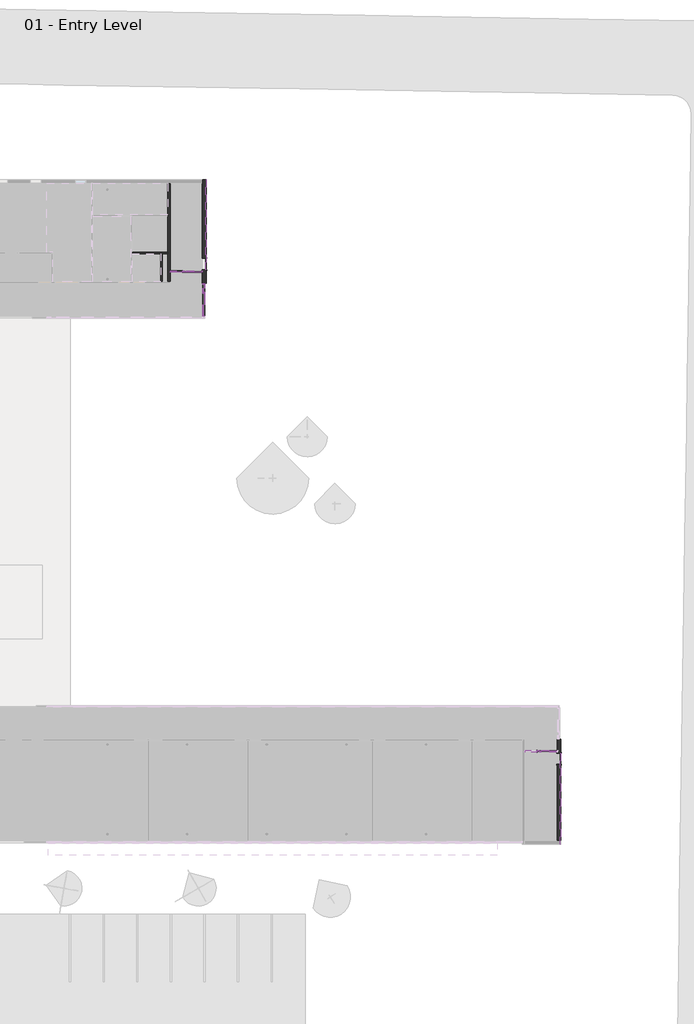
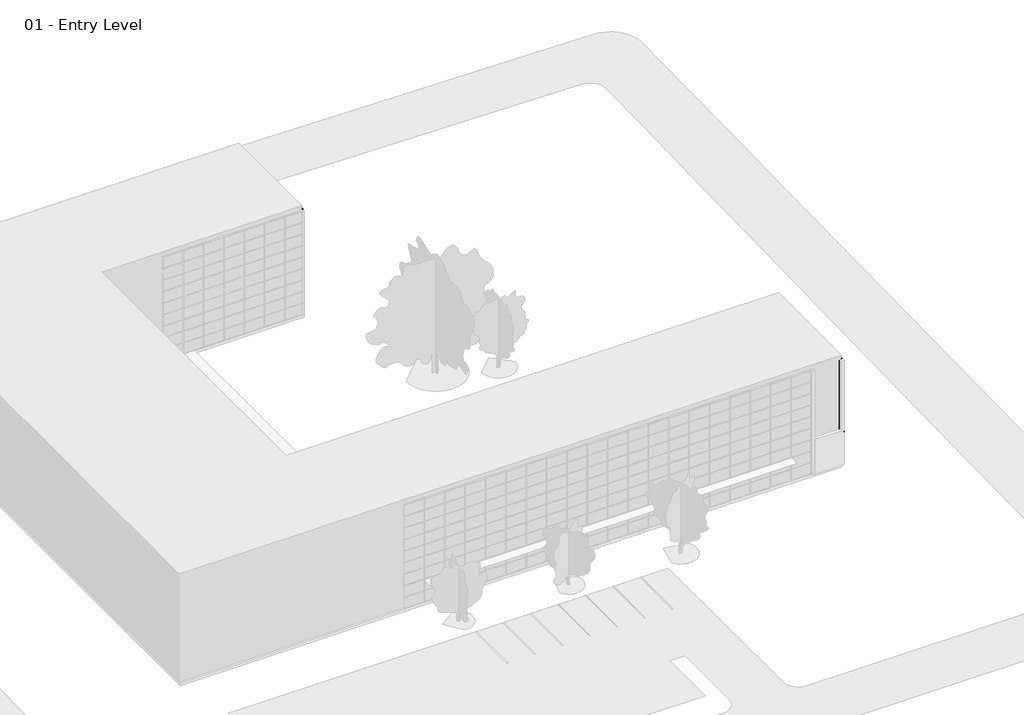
# One storey, part 31 of 34: 69 members, 24 plates, 5 walls, 4 proxies, 3 doors.
"""IFC4 building model written with IfcOpenShell, lengths in millimetres."""

from ifc_helpers import new_model, si_unit, frame, origin, origin_with_axes, place, context, project, spatial, polyline, outline, extrude, faceted_brep, transform, mapped, element, save
from components import curtain_wall_sgl_glass_curtain_wall_sgl_glass_c2d4b377, door_4e13689c, door_90af15fc, member_2b49869a, member_75074519, member_18e22e2d, member_9193c932, member_c33c434a, member_2ee2964b, member_9822c4e5, member_b50b2218, member_6186cc23, member_5d67b9fc, member_a50b3cda, member_c327c56d, member_410c6227, member_73c23c35, member_bcb6a316, member_d3323a85, member_7bd2cd2c, member_6be37683, member_aae1cefe, member_5e33a872, member_7c0f4a23, member_95d83a1b, system_panel_glazed_bb8d5bd2, system_panel_glazed_f6796d4b, system_panel_glazed_01db37db, system_panel_glazed_0a464ab8, system_panel_glazed_652e8fc4, system_panel_glazed_8dc8626f, system_panel_glazed_bb2f95a6, system_panel_glazed_de38c793, system_panel_glazed_8879a23a, system_panel_glazed_cf112098

model = new_model("IFC4")

# Units and contexts
model_context = context("Model", 3, world=origin())
ifc_project = project(units=[si_unit("LENGTHUNIT", "METRE", prefix="MILLI")], contexts=[model_context])

# Site, building, storey
site = spatial("IfcSite", under=ifc_project)
building = spatial("IfcBuilding", under=site)
storey = spatial("IfcBuildingStorey", under=building, Name="01 - Entry Level", Elevation=0.0)

# Proxies
placement = place(None, origin())
element("IfcBuildingElementProxy", 1, Name="Reveal", ObjectType="Reveal", at=placement, inside=storey, context=model_context, shape_type="SweptSolid", body=[
    extrude(outline(polyline([(66310.7957476, -254.075), (66259.9957476, -254.075), (66259.9957476, 7204.0), (66310.7957476, 7204.0), (66310.7957476, -254.075)])), frame((0.0, 0.0, 3429.0), z_axis=(0.0, 0.0, 1.0), x_axis=(1.0, 0.0, 0.0)), (0.0, 0.0, 1.0), 76.2),
])
element("IfcBuildingElementProxy", 2, Name="Reveal", ObjectType="Reveal", at=placement, inside=storey, context=model_context, shape_type="SweptSolid", body=[
    extrude(outline(polyline([(66259.9957476, 2490.7125), (66310.7957476, 2490.7125), (66310.7957476, 2414.5125), (66259.9957476, 2414.5125), (66259.9957476, 2490.7125)])), origin_with_axes(), (0.0, 0.0, 1.0), 9753.6),
])
element("IfcBuildingElementProxy", 3, Name="Reveal", ObjectType="Reveal", at=placement, inside=storey, context=model_context, shape_type="SweptSolid", body=[
    extrude(outline(polyline([(37303.9957476, 51336.5), (37354.7957476, 51336.5), (37354.7957476, 51260.3), (37303.9957476, 51260.3), (37303.9957476, 51336.5)])), origin_with_axes(), (0.0, 0.0, 1.0), 9753.6),
])
element("IfcBuildingElementProxy", 4, Name="Reveal", ObjectType="Reveal", at=placement, inside=storey, context=model_context, shape_type="SweptSolid", body=[
    extrude(outline(polyline([(37354.7957476, 46675.6), (37303.9957476, 46675.6), (37303.9957476, 54032.075), (37354.7957476, 54032.075), (37354.7957476, 46675.6)])), frame((0.0, 0.0, 3581.4), z_axis=(0.0, 0.0, 1.0), x_axis=(1.0, 0.0, 0.0)), (0.0, 0.0, 1.0), 76.2),
])

# Doors
curtain_wall_sgl_glass_curtain_wall_sgl_glass_shape = curtain_wall_sgl_glass_curtain_wall_sgl_glass_c2d4b377(model_context)
element("IfcDoor", 5, ObjectType="Curtain Wall Sgl Glass : Curtain Wall Sgl Glass", at=placement, inside=storey, context=model_context, shape_type="MappedRepresentation", body=[
    mapped(curtain_wall_sgl_glass_curtain_wall_sgl_glass_shape, transform((34925.9207476, 46523.2, 0.0), x_axis=(-1.0, 0.0, 0.0), y_axis=(0.0, -1.0, 0.0), z_axis=(0.0, 0.0, 1.0))),
])
door_shape = door_4e13689c(model_context)
element("IfcDoor", 6, ObjectType="Single-Flush : 36\" x 84\"", at=placement, inside=storey, context=model_context, shape_type="MappedRepresentation", body=[
    mapped(door_shape, transform((37200.8082476, 47132.8, 0.0), x_axis=(0.0, -1.0, 0.0), y_axis=(1.0, 0.0, 0.0), z_axis=(0.0, 0.0, 1.0))),
])
door_2_shape = door_90af15fc(model_context)
element("IfcDoor", 7, ObjectType="Single-Flush : 36\" x 84\"", at=placement, inside=storey, context=model_context, shape_type="MappedRepresentation", body=[
    mapped(door_2_shape, transform((66156.8082476, 6746.8, 0.0), x_axis=(0.0, 1.0, 0.0), y_axis=(-1.0, 0.0, 0.0), z_axis=(0.0, 0.0, 1.0))),
])

# Members
member_shape = member_2b49869a(model_context)
element("IfcMember", 8, ObjectType="Rectangular Mullion : 2.5\" x 5\" rectangular", at=placement, inside=storey, context=model_context, shape_type="MappedRepresentation", body=[
    mapped(member_shape, transform((37148.4207476, 44783.3, 9753.6), x_axis=(0.0, 1.0, 0.0), y_axis=(1.0, 0.0, 0.0), z_axis=(0.0, 0.0, -1.0))),
])
member_2_shape = member_75074519(model_context)
element("IfcMember", 9, ObjectType="Rectangular Mullion : 2.5\" x 5\" rectangular", at=placement, inside=storey, context=model_context, shape_type="MappedRepresentation", body=[
    mapped(member_2_shape, transform((37148.4207476, 45545.3, 9753.6), x_axis=(0.0, 1.0, 0.0), y_axis=(1.0, 0.0, 0.0), z_axis=(0.0, 0.0, -1.0))),
])
member_3_shape = member_18e22e2d(model_context)
element("IfcMember", 10, ObjectType="Rectangular Mullion : 2.5\" x 5\" rectangular", at=placement, inside=storey, context=model_context, shape_type="MappedRepresentation", body=[
    mapped(member_3_shape, transform((35414.8707476, 46523.2, 2438.4), x_axis=(1.0, 0.0, 0.0), y_axis=(0.0, -1.0, 0.0), z_axis=(0.0, 0.0, -1.0))),
])
element("IfcMember", 11, ObjectType="Rectangular Mullion : 2.5\" x 5\" rectangular", at=placement, inside=storey, context=model_context, shape_type="MappedRepresentation", body=[
    mapped(member_3_shape, transform((64358.1707476, 7356.4, 2438.4), x_axis=(1.0, 0.0, 0.0), y_axis=(0.0, -1.0, 0.0), z_axis=(0.0, 0.0, -1.0))),
])
member_4_shape = member_9193c932(model_context)
element("IfcMember", 12, ObjectType="Rectangular Mullion : 2.5\" x 5\" rectangular", at=placement, inside=storey, context=model_context, shape_type="MappedRepresentation", body=[
    mapped(member_4_shape, transform((66055.2082476, 7356.4, 2438.4), x_axis=(1.0, 0.0, 0.0), y_axis=(0.0, -1.0, 0.0), z_axis=(0.0, 0.0, -1.0))),
])
element("IfcMember", 13, ObjectType="Rectangular Mullion : 2.5\" x 5\" rectangular", at=placement, inside=storey, context=model_context, shape_type="MappedRepresentation", body=[
    mapped(member_4_shape, transform((34405.2207476, 46523.2, 3403.6), x_axis=(-1.0, 0.0, 0.0), y_axis=(0.0, -1.0, 0.0), z_axis=(0.0, 0.0, 1.0))),
])
element("IfcMember", 14, ObjectType="Rectangular Mullion : 2.5\" x 5\" rectangular", at=placement, inside=storey, context=model_context, shape_type="MappedRepresentation", body=[
    mapped(member_4_shape, transform((37046.8207476, 46523.2, 2438.4), x_axis=(1.0, 0.0, 0.0), y_axis=(0.0, -1.0, 0.0), z_axis=(0.0, 0.0, -1.0))),
])
element("IfcMember", 15, ObjectType="Rectangular Mullion : 2.5\" x 5\" rectangular", at=placement, inside=storey, context=model_context, shape_type="MappedRepresentation", body=[
    mapped(member_shape, transform((37148.4207476, 44783.3, 0.0), x_axis=(0.0, 1.0, 0.0), y_axis=(1.0, 0.0, 0.0), z_axis=(0.0, 0.0, -1.0))),
])
element("IfcMember", 16, ObjectType="Rectangular Mullion : 2.5\" x 5\" rectangular", at=placement, inside=storey, context=model_context, shape_type="MappedRepresentation", body=[
    mapped(member_shape, transform((37148.4207476, 44783.3, 1219.2), x_axis=(0.0, 1.0, 0.0), y_axis=(1.0, 0.0, 0.0), z_axis=(0.0, 0.0, -1.0))),
])
element("IfcMember", 17, ObjectType="Rectangular Mullion : 2.5\" x 5\" rectangular", at=placement, inside=storey, context=model_context, shape_type="MappedRepresentation", body=[
    mapped(member_shape, transform((37148.4207476, 44783.3, 2438.4), x_axis=(0.0, 1.0, 0.0), y_axis=(1.0, 0.0, 0.0), z_axis=(0.0, 0.0, -1.0))),
])
element("IfcMember", 18, ObjectType="Rectangular Mullion : 2.5\" x 5\" rectangular", at=placement, inside=storey, context=model_context, shape_type="MappedRepresentation", body=[
    mapped(member_shape, transform((37148.4207476, 44783.3, 3657.6), x_axis=(0.0, 1.0, 0.0), y_axis=(1.0, 0.0, 0.0), z_axis=(0.0, 0.0, -1.0))),
])
element("IfcMember", 19, ObjectType="Rectangular Mullion : 2.5\" x 5\" rectangular", at=placement, inside=storey, context=model_context, shape_type="MappedRepresentation", body=[
    mapped(member_shape, transform((37148.4207476, 44783.3, 4876.8), x_axis=(0.0, 1.0, 0.0), y_axis=(1.0, 0.0, 0.0), z_axis=(0.0, 0.0, -1.0))),
])
element("IfcMember", 20, ObjectType="Rectangular Mullion : 2.5\" x 5\" rectangular", at=placement, inside=storey, context=model_context, shape_type="MappedRepresentation", body=[
    mapped(member_shape, transform((37148.4207476, 44783.3, 6096.0), x_axis=(0.0, 1.0, 0.0), y_axis=(1.0, 0.0, 0.0), z_axis=(0.0, 0.0, -1.0))),
])
element("IfcMember", 21, ObjectType="Rectangular Mullion : 2.5\" x 5\" rectangular", at=placement, inside=storey, context=model_context, shape_type="MappedRepresentation", body=[
    mapped(member_shape, transform((37148.4207476, 44783.3, 7315.2), x_axis=(0.0, 1.0, 0.0), y_axis=(1.0, 0.0, 0.0), z_axis=(0.0, 0.0, -1.0))),
])
element("IfcMember", 22, ObjectType="Rectangular Mullion : 2.5\" x 5\" rectangular", at=placement, inside=storey, context=model_context, shape_type="MappedRepresentation", body=[
    mapped(member_shape, transform((37148.4207476, 44783.3, 8534.4), x_axis=(0.0, 1.0, 0.0), y_axis=(1.0, 0.0, 0.0), z_axis=(0.0, 0.0, -1.0))),
])
member_5_shape = member_c33c434a(model_context)
element("IfcMember", 23, ObjectType="Rectangular Mullion : 2.5\" x 5\" rectangular", at=placement, inside=storey, context=model_context, shape_type="MappedRepresentation", body=[
    mapped(member_5_shape, transform((37148.4207476, 45481.8, 10972.8), x_axis=(0.0, 0.0, 1.0), y_axis=(1.0, 0.0, 0.0), z_axis=(0.0, 1.0, 0.0))),
])
element("IfcMember", 24, ObjectType="Rectangular Mullion : 2.5\" x 5\" rectangular", at=placement, inside=storey, context=model_context, shape_type="MappedRepresentation", body=[
    mapped(member_5_shape, transform((37148.4207476, 44815.05, 0.0), x_axis=(0.0, 0.0, -1.0), y_axis=(1.0, 0.0, 0.0), z_axis=(0.0, -1.0, 0.0))),
])
member_6_shape = member_2ee2964b(model_context)
element("IfcMember", 25, ObjectType="Rectangular Mullion : 2.5\" x 5\" rectangular", at=placement, inside=storey, context=model_context, shape_type="MappedRepresentation", body=[
    mapped(member_6_shape, transform((37148.4207476, 45481.8, 1219.2), x_axis=(0.0, 0.0, 1.0), y_axis=(1.0, 0.0, 0.0), z_axis=(0.0, 1.0, 0.0))),
])
element("IfcMember", 26, ObjectType="Rectangular Mullion : 2.5\" x 5\" rectangular", at=placement, inside=storey, context=model_context, shape_type="MappedRepresentation", body=[
    mapped(member_6_shape, transform((37148.4207476, 45481.8, 2438.4), x_axis=(0.0, 0.0, 1.0), y_axis=(1.0, 0.0, 0.0), z_axis=(0.0, 1.0, 0.0))),
])
element("IfcMember", 27, ObjectType="Rectangular Mullion : 2.5\" x 5\" rectangular", at=placement, inside=storey, context=model_context, shape_type="MappedRepresentation", body=[
    mapped(member_6_shape, transform((37148.4207476, 45481.8, 3657.6), x_axis=(0.0, 0.0, 1.0), y_axis=(1.0, 0.0, 0.0), z_axis=(0.0, 1.0, 0.0))),
])
element("IfcMember", 28, ObjectType="Rectangular Mullion : 2.5\" x 5\" rectangular", at=placement, inside=storey, context=model_context, shape_type="MappedRepresentation", body=[
    mapped(member_6_shape, transform((37148.4207476, 45481.8, 4876.8), x_axis=(0.0, 0.0, 1.0), y_axis=(1.0, 0.0, 0.0), z_axis=(0.0, 1.0, 0.0))),
])
element("IfcMember", 29, ObjectType="Rectangular Mullion : 2.5\" x 5\" rectangular", at=placement, inside=storey, context=model_context, shape_type="MappedRepresentation", body=[
    mapped(member_6_shape, transform((37148.4207476, 45481.8, 6096.0), x_axis=(0.0, 0.0, 1.0), y_axis=(1.0, 0.0, 0.0), z_axis=(0.0, 1.0, 0.0))),
])
element("IfcMember", 30, ObjectType="Rectangular Mullion : 2.5\" x 5\" rectangular", at=placement, inside=storey, context=model_context, shape_type="MappedRepresentation", body=[
    mapped(member_6_shape, transform((37148.4207476, 45481.8, 7315.2), x_axis=(0.0, 0.0, 1.0), y_axis=(1.0, 0.0, 0.0), z_axis=(0.0, 1.0, 0.0))),
])
element("IfcMember", 31, ObjectType="Rectangular Mullion : 2.5\" x 5\" rectangular", at=placement, inside=storey, context=model_context, shape_type="MappedRepresentation", body=[
    mapped(member_6_shape, transform((37148.4207476, 45481.8, 8534.4), x_axis=(0.0, 0.0, 1.0), y_axis=(1.0, 0.0, 0.0), z_axis=(0.0, 1.0, 0.0))),
])
element("IfcMember", 32, ObjectType="Rectangular Mullion : 2.5\" x 5\" rectangular", at=placement, inside=storey, context=model_context, shape_type="MappedRepresentation", body=[
    mapped(member_6_shape, transform((37148.4207476, 45481.8, 9753.6), x_axis=(0.0, 0.0, 1.0), y_axis=(1.0, 0.0, 0.0), z_axis=(0.0, 1.0, 0.0))),
])
element("IfcMember", 33, ObjectType="Rectangular Mullion : 2.5\" x 5\" rectangular", at=placement, inside=storey, context=model_context, shape_type="MappedRepresentation", body=[
    mapped(member_2_shape, transform((37148.4207476, 45545.3, 0.0), x_axis=(0.0, 1.0, 0.0), y_axis=(1.0, 0.0, 0.0), z_axis=(0.0, 0.0, -1.0))),
])
element("IfcMember", 34, ObjectType="Rectangular Mullion : 2.5\" x 5\" rectangular", at=placement, inside=storey, context=model_context, shape_type="MappedRepresentation", body=[
    mapped(member_2_shape, transform((37148.4207476, 45545.3, 1219.2), x_axis=(0.0, 1.0, 0.0), y_axis=(1.0, 0.0, 0.0), z_axis=(0.0, 0.0, -1.0))),
])
element("IfcMember", 35, ObjectType="Rectangular Mullion : 2.5\" x 5\" rectangular", at=placement, inside=storey, context=model_context, shape_type="MappedRepresentation", body=[
    mapped(member_2_shape, transform((37148.4207476, 45545.3, 2438.4), x_axis=(0.0, 1.0, 0.0), y_axis=(1.0, 0.0, 0.0), z_axis=(0.0, 0.0, -1.0))),
])
element("IfcMember", 36, ObjectType="Rectangular Mullion : 2.5\" x 5\" rectangular", at=placement, inside=storey, context=model_context, shape_type="MappedRepresentation", body=[
    mapped(member_2_shape, transform((37148.4207476, 45545.3, 3657.6), x_axis=(0.0, 1.0, 0.0), y_axis=(1.0, 0.0, 0.0), z_axis=(0.0, 0.0, -1.0))),
])
element("IfcMember", 37, ObjectType="Rectangular Mullion : 2.5\" x 5\" rectangular", at=placement, inside=storey, context=model_context, shape_type="MappedRepresentation", body=[
    mapped(member_2_shape, transform((37148.4207476, 45545.3, 4876.8), x_axis=(0.0, 1.0, 0.0), y_axis=(1.0, 0.0, 0.0), z_axis=(0.0, 0.0, -1.0))),
])
element("IfcMember", 38, ObjectType="Rectangular Mullion : 2.5\" x 5\" rectangular", at=placement, inside=storey, context=model_context, shape_type="MappedRepresentation", body=[
    mapped(member_2_shape, transform((37148.4207476, 45545.3, 6096.0), x_axis=(0.0, 1.0, 0.0), y_axis=(1.0, 0.0, 0.0), z_axis=(0.0, 0.0, -1.0))),
])
element("IfcMember", 39, ObjectType="Rectangular Mullion : 2.5\" x 5\" rectangular", at=placement, inside=storey, context=model_context, shape_type="MappedRepresentation", body=[
    mapped(member_2_shape, transform((37148.4207476, 45545.3, 7315.2), x_axis=(0.0, 1.0, 0.0), y_axis=(1.0, 0.0, 0.0), z_axis=(0.0, 0.0, -1.0))),
])
element("IfcMember", 40, ObjectType="Rectangular Mullion : 2.5\" x 5\" rectangular", at=placement, inside=storey, context=model_context, shape_type="MappedRepresentation", body=[
    mapped(member_2_shape, transform((37148.4207476, 45545.3, 8534.4), x_axis=(0.0, 1.0, 0.0), y_axis=(1.0, 0.0, 0.0), z_axis=(0.0, 0.0, -1.0))),
])
member_7_shape = member_9822c4e5(model_context)
element("IfcMember", 41, ObjectType="Rectangular Mullion : 2.5\" x 5\" rectangular", at=placement, inside=storey, context=model_context, shape_type="MappedRepresentation", body=[
    mapped(member_7_shape, transform((37148.4207476, 44751.55, 10972.8), x_axis=(0.0, 0.0, 1.0), y_axis=(1.0, 0.0, 0.0), z_axis=(0.0, 1.0, 0.0))),
])
member_8_shape = member_b50b2218(model_context)
element("IfcMember", 42, ObjectType="Rectangular Mullion : 2.5\" x 5\" rectangular", at=placement, inside=storey, context=model_context, shape_type="MappedRepresentation", body=[
    mapped(member_8_shape, transform((37148.4207476, 44751.55, 1219.2), x_axis=(0.0, 0.0, 1.0), y_axis=(1.0, 0.0, 0.0), z_axis=(0.0, 1.0, 0.0))),
])
element("IfcMember", 43, ObjectType="Rectangular Mullion : 2.5\" x 5\" rectangular", at=placement, inside=storey, context=model_context, shape_type="MappedRepresentation", body=[
    mapped(member_8_shape, transform((37148.4207476, 44751.55, 2438.4), x_axis=(0.0, 0.0, 1.0), y_axis=(1.0, 0.0, 0.0), z_axis=(0.0, 1.0, 0.0))),
])
element("IfcMember", 44, ObjectType="Rectangular Mullion : 2.5\" x 5\" rectangular", at=placement, inside=storey, context=model_context, shape_type="MappedRepresentation", body=[
    mapped(member_8_shape, transform((37148.4207476, 44751.55, 3657.6), x_axis=(0.0, 0.0, 1.0), y_axis=(1.0, 0.0, 0.0), z_axis=(0.0, 1.0, 0.0))),
])
element("IfcMember", 45, ObjectType="Rectangular Mullion : 2.5\" x 5\" rectangular", at=placement, inside=storey, context=model_context, shape_type="MappedRepresentation", body=[
    mapped(member_8_shape, transform((37148.4207476, 44751.55, 4876.8), x_axis=(0.0, 0.0, 1.0), y_axis=(1.0, 0.0, 0.0), z_axis=(0.0, 1.0, 0.0))),
])
element("IfcMember", 46, ObjectType="Rectangular Mullion : 2.5\" x 5\" rectangular", at=placement, inside=storey, context=model_context, shape_type="MappedRepresentation", body=[
    mapped(member_8_shape, transform((37148.4207476, 44751.55, 6096.0), x_axis=(0.0, 0.0, 1.0), y_axis=(1.0, 0.0, 0.0), z_axis=(0.0, 1.0, 0.0))),
])
element("IfcMember", 47, ObjectType="Rectangular Mullion : 2.5\" x 5\" rectangular", at=placement, inside=storey, context=model_context, shape_type="MappedRepresentation", body=[
    mapped(member_8_shape, transform((37148.4207476, 44751.55, 7315.2), x_axis=(0.0, 0.0, 1.0), y_axis=(1.0, 0.0, 0.0), z_axis=(0.0, 1.0, 0.0))),
])
element("IfcMember", 48, ObjectType="Rectangular Mullion : 2.5\" x 5\" rectangular", at=placement, inside=storey, context=model_context, shape_type="MappedRepresentation", body=[
    mapped(member_8_shape, transform((37148.4207476, 44751.55, 8534.4), x_axis=(0.0, 0.0, 1.0), y_axis=(1.0, 0.0, 0.0), z_axis=(0.0, 1.0, 0.0))),
])
element("IfcMember", 49, ObjectType="Rectangular Mullion : 2.5\" x 5\" rectangular", at=placement, inside=storey, context=model_context, shape_type="MappedRepresentation", body=[
    mapped(member_8_shape, transform((37148.4207476, 44751.55, 9753.6), x_axis=(0.0, 0.0, 1.0), y_axis=(1.0, 0.0, 0.0), z_axis=(0.0, 1.0, 0.0))),
])
member_9_shape = member_6186cc23(model_context)
element("IfcMember", 50, ObjectType="Rectangular Mullion : 2.5\" x 5\" rectangular", at=placement, inside=storey, context=model_context, shape_type="MappedRepresentation", body=[
    mapped(member_9_shape, transform((35414.8707476, 46523.2, 0.0), x_axis=(1.0, 0.0, 0.0), y_axis=(0.0, -1.0, 0.0), z_axis=(0.0, 0.0, -1.0))),
])
member_10_shape = member_5d67b9fc(model_context)
element("IfcMember", 51, ObjectType="Rectangular Mullion : 2.5\" x 5\" rectangular", at=placement, inside=storey, context=model_context, shape_type="MappedRepresentation", body=[
    mapped(member_10_shape, transform((35414.8707476, 46523.2, 2165.35), x_axis=(1.0, 0.0, 0.0), y_axis=(0.0, -1.0, 0.0), z_axis=(0.0, 0.0, -1.0))),
])
member_11_shape = member_a50b3cda(model_context)
element("IfcMember", 52, ObjectType="Rectangular Mullion : 2.5\" x 5\" rectangular", at=placement, inside=storey, context=model_context, shape_type="MappedRepresentation", body=[
    mapped(member_11_shape, transform((37046.8207476, 46523.2, 0.0), x_axis=(1.0, 0.0, 0.0), y_axis=(0.0, -1.0, 0.0), z_axis=(0.0, 0.0, -1.0))),
])
member_12_shape = member_c327c56d(model_context)
element("IfcMember", 53, ObjectType="Rectangular Mullion : 2.5\" x 5\" rectangular", at=placement, inside=storey, context=model_context, shape_type="MappedRepresentation", body=[
    mapped(member_12_shape, transform((37046.8207476, 46523.2, 2165.35), x_axis=(1.0, 0.0, 0.0), y_axis=(0.0, -1.0, 0.0), z_axis=(0.0, 0.0, -1.0))),
])
member_13_shape = member_410c6227(model_context)
element("IfcMember", 54, ObjectType="Rectangular Mullion : 2.5\" x 5\" rectangular", at=placement, inside=storey, context=model_context, shape_type="MappedRepresentation", body=[
    mapped(member_13_shape, transform((35383.1207476, 46523.2, 2438.4), x_axis=(0.0, 0.0, 1.0), y_axis=(0.0, -1.0, 0.0), z_axis=(1.0, 0.0, 0.0))),
])
element("IfcMember", 55, ObjectType="Rectangular Mullion : 2.5\" x 5\" rectangular", at=placement, inside=storey, context=model_context, shape_type="MappedRepresentation", body=[
    mapped(member_13_shape, transform((35383.1207476, 46523.2, 2165.35), x_axis=(0.0, 0.0, 1.0), y_axis=(0.0, -1.0, 0.0), z_axis=(1.0, 0.0, 0.0))),
])
member_14_shape = member_73c23c35(model_context)
element("IfcMember", 56, ObjectType="Rectangular Mullion : 2.5\" x 5\" rectangular", at=placement, inside=storey, context=model_context, shape_type="MappedRepresentation", body=[
    mapped(member_14_shape, transform((35383.1207476, 46523.2, 3403.6), x_axis=(0.0, 0.0, 1.0), y_axis=(0.0, -1.0, 0.0), z_axis=(1.0, 0.0, 0.0))),
])
element("IfcMember", 57, ObjectType="Rectangular Mullion : 2.5\" x 5\" rectangular", at=placement, inside=storey, context=model_context, shape_type="MappedRepresentation", body=[
    mapped(member_12_shape, transform((34405.2207476, 46523.2, 2438.4), x_axis=(-1.0, 0.0, 0.0), y_axis=(0.0, -1.0, 0.0), z_axis=(0.0, 0.0, 1.0))),
])
element("IfcMember", 58, ObjectType="Rectangular Mullion : 2.5\" x 5\" rectangular", at=placement, inside=storey, context=model_context, shape_type="MappedRepresentation", body=[
    mapped(member_11_shape, transform((34405.2207476, 46523.2, 2165.35), x_axis=(-1.0, 0.0, 0.0), y_axis=(0.0, -1.0, 0.0), z_axis=(0.0, 0.0, 1.0))),
])
member_15_shape = member_bcb6a316(model_context)
element("IfcMember", 59, ObjectType="Rectangular Mullion : 2.5\" x 5\" rectangular", at=placement, inside=storey, context=model_context, shape_type="MappedRepresentation", body=[
    mapped(member_15_shape, transform((35726.0207476, 46523.2, 0.0), x_axis=(0.0, 0.0, -1.0), y_axis=(0.0, -1.0, 0.0), z_axis=(-1.0, 0.0, 0.0))),
])
member_16_shape = member_d3323a85(model_context)
element("IfcMember", 60, ObjectType="Rectangular Mullion : 2.5\" x 5\" rectangular", at=placement, inside=storey, context=model_context, shape_type="MappedRepresentation", body=[
    mapped(member_16_shape, transform((35446.6207476, 46523.2, 0.0), x_axis=(0.0, 0.0, -1.0), y_axis=(0.0, -1.0, 0.0), z_axis=(-1.0, 0.0, 0.0))),
])
element("IfcMember", 61, ObjectType="Rectangular Mullion : 2.5\" x 5\" rectangular", at=placement, inside=storey, context=model_context, shape_type="MappedRepresentation", body=[
    mapped(member_15_shape, transform((36983.3207476, 46523.2, 3403.6), x_axis=(0.0, 0.0, 1.0), y_axis=(0.0, -1.0, 0.0), z_axis=(1.0, 0.0, 0.0))),
])
element("IfcMember", 62, ObjectType="Rectangular Mullion : 2.5\" x 5\" rectangular", at=placement, inside=storey, context=model_context, shape_type="MappedRepresentation", body=[
    mapped(member_16_shape, transform((35726.0207476, 46523.2, 3403.6), x_axis=(0.0, 0.0, 1.0), y_axis=(0.0, -1.0, 0.0), z_axis=(1.0, 0.0, 0.0))),
])
member_17_shape = member_7bd2cd2c(model_context)
element("IfcMember", 63, ObjectType="Rectangular Mullion : 2.5\" x 5\" rectangular", at=placement, inside=storey, context=model_context, shape_type="MappedRepresentation", body=[
    mapped(member_17_shape, transform((36983.3207476, 46523.2, 2438.4), x_axis=(0.0, 0.0, 1.0), y_axis=(0.0, -1.0, 0.0), z_axis=(1.0, 0.0, 0.0))),
])
member_18_shape = member_6be37683(model_context)
element("IfcMember", 64, ObjectType="Rectangular Mullion : 2.5\" x 5\" rectangular", at=placement, inside=storey, context=model_context, shape_type="MappedRepresentation", body=[
    mapped(member_18_shape, transform((35726.0207476, 46523.2, 2438.4), x_axis=(0.0, 0.0, 1.0), y_axis=(0.0, -1.0, 0.0), z_axis=(1.0, 0.0, 0.0))),
])
element("IfcMember", 65, ObjectType="Rectangular Mullion : 2.5\" x 5\" rectangular", at=placement, inside=storey, context=model_context, shape_type="MappedRepresentation", body=[
    mapped(member_13_shape, transform((64326.4207476, 7356.4, 2438.4), x_axis=(0.0, 0.0, 1.0), y_axis=(0.0, -1.0, 0.0), z_axis=(1.0, 0.0, 0.0))),
])
element("IfcMember", 66, ObjectType="Rectangular Mullion : 2.5\" x 5\" rectangular", at=placement, inside=storey, context=model_context, shape_type="MappedRepresentation", body=[
    mapped(member_13_shape, transform((64326.4207476, 7356.4, 2165.35), x_axis=(0.0, 0.0, 1.0), y_axis=(0.0, -1.0, 0.0), z_axis=(1.0, 0.0, 0.0))),
])
element("IfcMember", 67, ObjectType="Rectangular Mullion : 2.5\" x 5\" rectangular", at=placement, inside=storey, context=model_context, shape_type="MappedRepresentation", body=[
    mapped(member_14_shape, transform((64326.4207476, 7356.4, 3403.6), x_axis=(0.0, 0.0, 1.0), y_axis=(0.0, -1.0, 0.0), z_axis=(1.0, 0.0, 0.0))),
])
element("IfcMember", 68, ObjectType="Rectangular Mullion : 2.5\" x 5\" rectangular", at=placement, inside=storey, context=model_context, shape_type="MappedRepresentation", body=[
    mapped(member_9_shape, transform((64358.1707476, 7356.4, 0.0), x_axis=(1.0, 0.0, 0.0), y_axis=(0.0, -1.0, 0.0), z_axis=(0.0, 0.0, -1.0))),
])
element("IfcMember", 69, ObjectType="Rectangular Mullion : 2.5\" x 5\" rectangular", at=placement, inside=storey, context=model_context, shape_type="MappedRepresentation", body=[
    mapped(member_10_shape, transform((64358.1707476, 7356.4, 2165.35), x_axis=(1.0, 0.0, 0.0), y_axis=(0.0, -1.0, 0.0), z_axis=(0.0, 0.0, -1.0))),
])
member_19_shape = member_aae1cefe(model_context)
element("IfcMember", 70, ObjectType="Rectangular Mullion : 2.5\" x 5\" rectangular", at=placement, inside=storey, context=model_context, shape_type="MappedRepresentation", body=[
    mapped(member_19_shape, transform((64701.8644976, 7356.4, 0.0), x_axis=(0.0, 0.0, -1.0), y_axis=(0.0, -1.0, 0.0), z_axis=(-1.0, 0.0, 0.0))),
])
member_20_shape = member_5e33a872(model_context)
element("IfcMember", 71, ObjectType="Rectangular Mullion : 2.5\" x 5\" rectangular", at=placement, inside=storey, context=model_context, shape_type="MappedRepresentation", body=[
    mapped(member_20_shape, transform((64389.9207476, 7356.4, 0.0), x_axis=(0.0, 0.0, -1.0), y_axis=(0.0, -1.0, 0.0), z_axis=(-1.0, 0.0, 0.0))),
])
member_21_shape = member_7c0f4a23(model_context)
element("IfcMember", 72, ObjectType="Rectangular Mullion : 2.5\" x 5\" rectangular", at=placement, inside=storey, context=model_context, shape_type="MappedRepresentation", body=[
    mapped(member_21_shape, transform((64701.8644976, 7356.4, 2438.4), x_axis=(0.0, 0.0, 1.0), y_axis=(0.0, -1.0, 0.0), z_axis=(1.0, 0.0, 0.0))),
])
member_22_shape = member_95d83a1b(model_context)
element("IfcMember", 73, ObjectType="Rectangular Mullion : 2.5\" x 5\" rectangular", at=placement, inside=storey, context=model_context, shape_type="MappedRepresentation", body=[
    mapped(member_22_shape, transform((65991.7082476, 7356.4, 2438.4), x_axis=(0.0, 0.0, 1.0), y_axis=(0.0, -1.0, 0.0), z_axis=(1.0, 0.0, 0.0))),
])
element("IfcMember", 74, ObjectType="Rectangular Mullion : 2.5\" x 5\" rectangular", at=placement, inside=storey, context=model_context, shape_type="MappedRepresentation", body=[
    mapped(member_19_shape, transform((65991.7082476, 7356.4, 3403.6), x_axis=(0.0, 0.0, 1.0), y_axis=(0.0, -1.0, 0.0), z_axis=(1.0, 0.0, 0.0))),
])
element("IfcMember", 75, ObjectType="Rectangular Mullion : 2.5\" x 5\" rectangular", at=placement, inside=storey, context=model_context, shape_type="MappedRepresentation", body=[
    mapped(member_20_shape, transform((64701.8644976, 7356.4, 3403.6), x_axis=(0.0, 0.0, 1.0), y_axis=(0.0, -1.0, 0.0), z_axis=(1.0, 0.0, 0.0))),
])
element("IfcMember", 76, ObjectType="Rectangular Mullion : 2.5\" x 5\" rectangular", at=placement, inside=storey, context=model_context, shape_type="MappedRepresentation", body=[
    mapped(member_11_shape, transform((66055.2082476, 7356.4, 0.0), x_axis=(1.0, 0.0, 0.0), y_axis=(0.0, -1.0, 0.0), z_axis=(0.0, 0.0, -1.0))),
])

# Plates
system_panel_glazed_shape = system_panel_glazed_bb8d5bd2(model_context)
element("IfcPlate", 77, ObjectType="System Panel : Glazed", at=placement, inside=storey, context=model_context, shape_type="MappedRepresentation", body=[
    mapped(system_panel_glazed_shape, transform((37148.4207476, 45148.425, 63.5), x_axis=(0.0, 1.0, 0.0), y_axis=(-1.0, 0.0, 0.0), z_axis=(0.0, 0.0, 1.0))),
])
element("IfcPlate", 78, ObjectType="System Panel : Glazed", at=placement, inside=storey, context=model_context, shape_type="MappedRepresentation", body=[
    mapped(system_panel_glazed_shape, transform((37148.4207476, 45148.425, 9785.35), x_axis=(0.0, 1.0, 0.0), y_axis=(-1.0, 0.0, 0.0), z_axis=(0.0, 0.0, 1.0))),
])
system_panel_glazed_2_shape = system_panel_glazed_f6796d4b(model_context)
element("IfcPlate", 79, ObjectType="System Panel : Glazed", at=placement, inside=storey, context=model_context, shape_type="MappedRepresentation", body=[
    mapped(system_panel_glazed_2_shape, transform((37148.4207476, 45148.425, 1250.95), x_axis=(0.0, 1.0, 0.0), y_axis=(-1.0, 0.0, 0.0), z_axis=(0.0, 0.0, 1.0))),
])
element("IfcPlate", 80, ObjectType="System Panel : Glazed", at=placement, inside=storey, context=model_context, shape_type="MappedRepresentation", body=[
    mapped(system_panel_glazed_2_shape, transform((37148.4207476, 45148.425, 2470.15), x_axis=(0.0, 1.0, 0.0), y_axis=(-1.0, 0.0, 0.0), z_axis=(0.0, 0.0, 1.0))),
])
element("IfcPlate", 81, ObjectType="System Panel : Glazed", at=placement, inside=storey, context=model_context, shape_type="MappedRepresentation", body=[
    mapped(system_panel_glazed_2_shape, transform((37148.4207476, 45148.425, 3689.35), x_axis=(0.0, 1.0, 0.0), y_axis=(-1.0, 0.0, 0.0), z_axis=(0.0, 0.0, 1.0))),
])
element("IfcPlate", 82, ObjectType="System Panel : Glazed", at=placement, inside=storey, context=model_context, shape_type="MappedRepresentation", body=[
    mapped(system_panel_glazed_2_shape, transform((37148.4207476, 45148.425, 4908.55), x_axis=(0.0, 1.0, 0.0), y_axis=(-1.0, 0.0, 0.0), z_axis=(0.0, 0.0, 1.0))),
])
element("IfcPlate", 83, ObjectType="System Panel : Glazed", at=placement, inside=storey, context=model_context, shape_type="MappedRepresentation", body=[
    mapped(system_panel_glazed_2_shape, transform((37148.4207476, 45148.425, 6127.75), x_axis=(0.0, 1.0, 0.0), y_axis=(-1.0, 0.0, 0.0), z_axis=(0.0, 0.0, 1.0))),
])
element("IfcPlate", 84, ObjectType="System Panel : Glazed", at=placement, inside=storey, context=model_context, shape_type="MappedRepresentation", body=[
    mapped(system_panel_glazed_2_shape, transform((37148.4207476, 45148.425, 7346.95), x_axis=(0.0, 1.0, 0.0), y_axis=(-1.0, 0.0, 0.0), z_axis=(0.0, 0.0, 1.0))),
])
element("IfcPlate", 85, ObjectType="System Panel : Glazed", at=placement, inside=storey, context=model_context, shape_type="MappedRepresentation", body=[
    mapped(system_panel_glazed_2_shape, transform((37148.4207476, 45148.425, 8566.15), x_axis=(0.0, 1.0, 0.0), y_axis=(-1.0, 0.0, 0.0), z_axis=(0.0, 0.0, 1.0))),
])
system_panel_glazed_3_shape = system_panel_glazed_01db37db(model_context)
element("IfcPlate", 86, ObjectType="System Panel : Glazed", at=placement, inside=storey, context=model_context, shape_type="MappedRepresentation", body=[
    mapped(system_panel_glazed_3_shape, transform((37148.4207476, 43814.925, 63.5), x_axis=(0.0, 1.0, 0.0), y_axis=(-1.0, 0.0, 0.0), z_axis=(0.0, 0.0, 1.0))),
])
element("IfcPlate", 87, ObjectType="System Panel : Glazed", at=placement, inside=storey, context=model_context, shape_type="MappedRepresentation", body=[
    mapped(system_panel_glazed_3_shape, transform((37148.4207476, 43814.925, 9785.35), x_axis=(0.0, 1.0, 0.0), y_axis=(-1.0, 0.0, 0.0), z_axis=(0.0, 0.0, 1.0))),
])
system_panel_glazed_4_shape = system_panel_glazed_0a464ab8(model_context)
element("IfcPlate", 88, ObjectType="System Panel : Glazed", at=placement, inside=storey, context=model_context, shape_type="MappedRepresentation", body=[
    mapped(system_panel_glazed_4_shape, transform((37148.4207476, 43814.925, 1250.95), x_axis=(0.0, 1.0, 0.0), y_axis=(-1.0, 0.0, 0.0), z_axis=(0.0, 0.0, 1.0))),
])
element("IfcPlate", 89, ObjectType="System Panel : Glazed", at=placement, inside=storey, context=model_context, shape_type="MappedRepresentation", body=[
    mapped(system_panel_glazed_4_shape, transform((37148.4207476, 43814.925, 2470.15), x_axis=(0.0, 1.0, 0.0), y_axis=(-1.0, 0.0, 0.0), z_axis=(0.0, 0.0, 1.0))),
])
element("IfcPlate", 90, ObjectType="System Panel : Glazed", at=placement, inside=storey, context=model_context, shape_type="MappedRepresentation", body=[
    mapped(system_panel_glazed_4_shape, transform((37148.4207476, 43814.925, 3689.35), x_axis=(0.0, 1.0, 0.0), y_axis=(-1.0, 0.0, 0.0), z_axis=(0.0, 0.0, 1.0))),
])
element("IfcPlate", 91, ObjectType="System Panel : Glazed", at=placement, inside=storey, context=model_context, shape_type="MappedRepresentation", body=[
    mapped(system_panel_glazed_4_shape, transform((37148.4207476, 43814.925, 4908.55), x_axis=(0.0, 1.0, 0.0), y_axis=(-1.0, 0.0, 0.0), z_axis=(0.0, 0.0, 1.0))),
])
element("IfcPlate", 92, ObjectType="System Panel : Glazed", at=placement, inside=storey, context=model_context, shape_type="MappedRepresentation", body=[
    mapped(system_panel_glazed_4_shape, transform((37148.4207476, 43814.925, 6127.75), x_axis=(0.0, 1.0, 0.0), y_axis=(-1.0, 0.0, 0.0), z_axis=(0.0, 0.0, 1.0))),
])
element("IfcPlate", 93, ObjectType="System Panel : Glazed", at=placement, inside=storey, context=model_context, shape_type="MappedRepresentation", body=[
    mapped(system_panel_glazed_4_shape, transform((37148.4207476, 43814.925, 7346.95), x_axis=(0.0, 1.0, 0.0), y_axis=(-1.0, 0.0, 0.0), z_axis=(0.0, 0.0, 1.0))),
])
element("IfcPlate", 94, ObjectType="System Panel : Glazed", at=placement, inside=storey, context=model_context, shape_type="MappedRepresentation", body=[
    mapped(system_panel_glazed_4_shape, transform((37148.4207476, 43814.925, 8566.15), x_axis=(0.0, 1.0, 0.0), y_axis=(-1.0, 0.0, 0.0), z_axis=(0.0, 0.0, 1.0))),
])
system_panel_glazed_5_shape = system_panel_glazed_652e8fc4(model_context)
element("IfcPlate", 95, ObjectType="System Panel : Glazed", at=placement, inside=storey, context=model_context, shape_type="MappedRepresentation", body=[
    mapped(system_panel_glazed_5_shape, transform((34925.9207476, 46523.2, 2470.15), x_axis=(1.0, 0.0, 0.0), y_axis=(0.0, 1.0, 0.0), z_axis=(0.0, 0.0, 1.0))),
])
system_panel_glazed_6_shape = system_panel_glazed_8dc8626f(model_context)
element("IfcPlate", 96, ObjectType="System Panel : Glazed", at=placement, inside=storey, context=model_context, shape_type="MappedRepresentation", body=[
    mapped(system_panel_glazed_6_shape, transform((34925.9207476, 46523.2, 2197.1), x_axis=(1.0, 0.0, 0.0), y_axis=(0.0, 1.0, 0.0), z_axis=(0.0, 0.0, 1.0))),
])
system_panel_glazed_7_shape = system_panel_glazed_bb2f95a6(model_context)
element("IfcPlate", 97, ObjectType="System Panel : Glazed", at=placement, inside=storey, context=model_context, shape_type="MappedRepresentation", body=[
    mapped(system_panel_glazed_7_shape, transform((36214.9707476, 46523.2, 63.5), x_axis=(1.0, 0.0, 0.0), y_axis=(0.0, 1.0, 0.0), z_axis=(0.0, 0.0, 1.0))),
])
system_panel_glazed_8_shape = system_panel_glazed_de38c793(model_context)
element("IfcPlate", 98, ObjectType="System Panel : Glazed", at=placement, inside=storey, context=model_context, shape_type="MappedRepresentation", body=[
    mapped(system_panel_glazed_8_shape, transform((36214.9707476, 46523.2, 2470.15), x_axis=(1.0, 0.0, 0.0), y_axis=(0.0, 1.0, 0.0), z_axis=(0.0, 0.0, 1.0))),
])
system_panel_glazed_9_shape = system_panel_glazed_8879a23a(model_context)
element("IfcPlate", 99, ObjectType="System Panel : Glazed", at=placement, inside=storey, context=model_context, shape_type="MappedRepresentation", body=[
    mapped(system_panel_glazed_9_shape, transform((65190.8144976, 7356.4, 2470.15), x_axis=(1.0, 0.0, 0.0), y_axis=(0.0, 1.0, 0.0), z_axis=(0.0, 0.0, 1.0))),
])
system_panel_glazed_10_shape = system_panel_glazed_cf112098(model_context)
element("IfcPlate", 100, ObjectType="System Panel : Glazed", at=placement, inside=storey, context=model_context, shape_type="MappedRepresentation", body=[
    mapped(system_panel_glazed_10_shape, transform((65190.8144976, 7356.4, 63.5), x_axis=(1.0, 0.0, 0.0), y_axis=(0.0, 1.0, 0.0), z_axis=(0.0, 0.0, 1.0))),
])

# Walls
element("IfcWall", 101, ObjectType="Exterior - EIFS on CMU", at=placement, inside=storey, context=model_context, shape_type="Brep", body=[
    faceted_brep([(66310.7957476, 8334.3, 0.0), (66310.7957476, 8334.3, 10972.8), (66310.7957476, 53.9, 10972.8), (66310.7957476, 53.9, 3505.2), (66310.7957476, 2414.5125, 3505.2), (66310.7957476, 2414.5125, 9753.6), (66310.7957476, 2490.7125, 9753.6), (66310.7957476, 2490.7125, 3505.2), (66310.7957476, 7204.0, 3505.2), (66310.7957476, 7204.0, 3429.0), (66310.7957476, 2490.7125, 3429.0), (66310.7957476, 2490.7125, 0.0), (66310.7957476, 6289.6, 0.0), (66310.7957476, 6289.6, 2133.6), (66310.7957476, 7204.0, 2133.6), (66310.7957476, 7204.0, 0.0), (66310.7957476, 53.9, 3429.0), (66310.7957476, 53.9, 0.0), (66310.7957476, 2414.5125, 0.0), (66310.7957476, 2414.5125, 3429.0), (66002.8207476, 8334.3, 10972.8), (66002.8207476, 8334.3, 0.0), (66002.8207476, 7204.0, 0.0), (66002.8207476, 7204.0, 2133.6), (66002.8207476, 6289.6, 2133.6), (66002.8207476, 6289.6, 0.0), (66002.8207476, 53.9, 0.0), (66002.8207476, 53.9, 3657.6), (66002.8207476, 53.9, 10972.8), (66259.9957476, 2490.7125, 0.0), (66259.9957476, 2414.5125, 0.0), (66259.9957476, 53.9, 3429.0), (66259.9957476, 53.9, 3505.2), (66259.9957476, 7204.0, 3505.2), (66259.9957476, 7204.0, 3429.0), (66259.9957476, 2490.7125, 3505.2), (66259.9957476, 2490.7125, 9753.6), (66259.9957476, 2414.5125, 9753.6), (66259.9957476, 2414.5125, 3505.2), (66259.9957476, 2414.5125, 3429.0), (66259.9957476, 2490.7125, 3429.0)], [[[0, 1, 2, 3, 4, 5, 6, 7, 8, 9, 10, 11, 12, 13, 14, 15]], [[16, 17, 18, 19]], [[20, 21, 22, 23, 24, 25, 26, 27, 28]], [[21, 0, 15, 22]], [[17, 26, 25, 12, 11, 29, 30, 18]], [[1, 0, 21, 20]], [[2, 1, 20, 28]], [[2, 28, 27, 26, 17, 16, 31, 32, 3]], [[23, 22, 15, 14]], [[24, 23, 14, 13]], [[25, 24, 13, 12]], [[8, 33, 34, 9]], [[34, 33, 35, 36, 37, 38, 32, 31, 39, 30, 29, 40]], [[9, 34, 40, 10]], [[31, 16, 19, 39]], [[33, 8, 7, 35]], [[3, 32, 38, 4]], [[37, 36, 6, 5]], [[37, 5, 4, 38]], [[30, 39, 19, 18]], [[6, 36, 35, 7]], [[40, 29, 11, 10]]]),
])
element("IfcWall", 102, ObjectType="Exterior - EIFS on CMU", at=placement, inside=storey, context=model_context, shape_type="Brep", body=[
    faceted_brep([(37354.7957476, 54032.075, 10972.8), (37354.7957476, 45545.3, 10972.8), (37354.7957476, 45545.3, 0.0), (37354.7957476, 46675.6, 0.0), (37354.7957476, 46675.6, 2133.6), (37354.7957476, 47590.0, 2133.6), (37354.7957476, 47590.0, 0.0), (37354.7957476, 51260.3, 0.0), (37354.7957476, 51260.3, 3581.4), (37354.7957476, 46675.6, 3581.4), (37354.7957476, 46675.6, 3657.6), (37354.7957476, 51260.3, 3657.6), (37354.7957476, 51260.3, 9753.6), (37354.7957476, 51336.5, 9753.6), (37354.7957476, 51336.5, 3657.6), (37354.7957476, 54032.075, 3657.6), (37354.7957476, 51336.5, 0.0), (37354.7957476, 54032.075, 0.0), (37354.7957476, 54032.075, 3581.4), (37354.7957476, 51336.5, 3581.4), (37046.8207476, 45545.3, 10972.8), (37046.8207476, 54032.075, 10972.8), (37046.8207476, 54032.075, 3657.6), (37046.8207476, 54032.075, 0.0), (37046.8207476, 53724.1, 0.0), (37046.8207476, 47590.0, 0.0), (37046.8207476, 47590.0, 2133.6), (37046.8207476, 46675.6, 2133.6), (37046.8207476, 46675.6, 0.0), (37046.8207476, 45545.3, 0.0), (37303.9957476, 51336.5, 0.0), (37303.9957476, 51260.3, 0.0), (37059.5207476, 54032.075, 10972.8), (37303.9957476, 54032.075, 3657.6), (37303.9957476, 54032.075, 3581.4), (37303.9957476, 51260.3, 9753.6), (37303.9957476, 51336.5, 9753.6), (37303.9957476, 51260.3, 3657.6), (37303.9957476, 46675.6, 3657.6), (37303.9957476, 46675.6, 3581.4), (37303.9957476, 51260.3, 3581.4), (37303.9957476, 51336.5, 3581.4), (37303.9957476, 51336.5, 3657.6)], [[[0, 1, 2, 3, 4, 5, 6, 7, 8, 9, 10, 11, 12, 13, 14, 15]], [[16, 17, 18, 19]], [[20, 21, 22, 23, 24, 25, 26, 27, 28, 29]], [[2, 29, 28, 3]], [[23, 17, 16, 30, 31, 7, 6, 25, 24]], [[1, 0, 32, 21, 20]], [[2, 1, 20, 29]], [[17, 23, 22, 21, 32, 0, 15, 33, 34, 18]], [[6, 5, 26, 25]], [[5, 4, 27, 26]], [[4, 3, 28, 27]], [[35, 36, 13, 12]], [[36, 35, 37, 38, 39, 40, 31, 30, 41, 34, 33, 42]], [[35, 12, 11, 37]], [[7, 31, 40, 8]], [[13, 36, 42, 14]], [[30, 16, 19, 41]], [[39, 38, 10, 9]], [[39, 9, 8, 40]], [[34, 41, 19, 18]], [[10, 38, 37, 11]], [[42, 33, 15, 14]]]),
])
element("IfcWall", 103, ObjectType="Generic - 5\"", at=placement, inside=storey, context=model_context, shape_type="Brep", body=[
    faceted_brep([(31319.1207476, 47983.7, 0.0), (33630.5207476, 47983.7, 0.0), (33757.5207476, 47983.7, 0.0), (34202.0207476, 47983.7, 0.0), (34202.0207476, 47983.7, 3403.6), (33757.5207476, 47983.7, 3403.6), (33630.5207476, 47983.7, 3403.6), (31319.1207476, 47983.7, 3403.6), (31319.1207476, 48110.7, 0.0), (31319.1207476, 48110.7, 3403.6), (34202.0207476, 48110.7, 3403.6), (34202.0207476, 48110.7, 0.0)], [[[0, 1, 2, 3, 4, 5, 6, 7]], [[8, 9, 10, 11]], [[3, 2, 1, 0, 8, 11]], [[4, 3, 11, 10]], [[0, 7, 9, 8]], [[7, 6, 5, 4, 10, 9]]]),
])
element("IfcWall", 104, ObjectType="Generic - 5\"", at=placement, inside=storey, context=model_context, shape_type="SweptSolid", body=[
    extrude(outline(polyline([(33757.5207476, 47983.7), (33757.5207476, 45672.3), (33630.5207476, 45672.3), (33630.5207476, 47983.7), (33757.5207476, 47983.7)])), origin_with_axes(), (0.0, 0.0, 1.0), 3403.6),
])
element("IfcWall", 105, ObjectType="Generic - 8\"", at=placement, inside=storey, context=model_context, shape_type="Brep", body=[
    faceted_brep([(34202.0207476, 53724.1, 0.0), (34202.0207476, 51146.0, 0.0), (34202.0207476, 51019.0, 0.0), (34202.0207476, 48110.7, 0.0), (34202.0207476, 47983.7, 0.0), (34202.0207476, 45672.3, 0.0), (34202.0207476, 45672.3, 3657.6), (34202.0207476, 45545.3, 3657.6), (34202.0207476, 45545.3, 7061.2), (34202.0207476, 45545.3, 7315.2), (34202.0207476, 45545.3, 10972.8), (34202.0207476, 45672.3, 10972.8), (34202.0207476, 47983.7, 10972.8), (34202.0207476, 48110.7, 10972.8), (34202.0207476, 53724.1, 10972.8), (34405.2207476, 53724.1, 0.0), (34405.2207476, 53724.1, 3657.6), (34405.2207476, 53724.1, 10972.8), (34405.2207476, 45545.3, 10972.8), (34405.2207476, 45545.3, 3657.6), (34405.2207476, 45672.3, 3657.6), (34405.2207476, 45672.3, 3403.6), (34405.2207476, 45672.3, 0.0)], [[[0, 1, 2, 3, 4, 5, 6, 7, 8, 9, 10, 11, 12, 13, 14]], [[15, 16, 17, 18, 19, 20, 21, 22]], [[5, 4, 3, 2, 1, 0, 15, 22]], [[14, 13, 12, 11, 10, 18, 17]], [[0, 14, 17, 16, 15]], [[19, 7, 6, 20]], [[6, 5, 22, 21, 20]], [[7, 19, 18, 10, 9, 8]]]),
])

save(model, "model.ifc")
